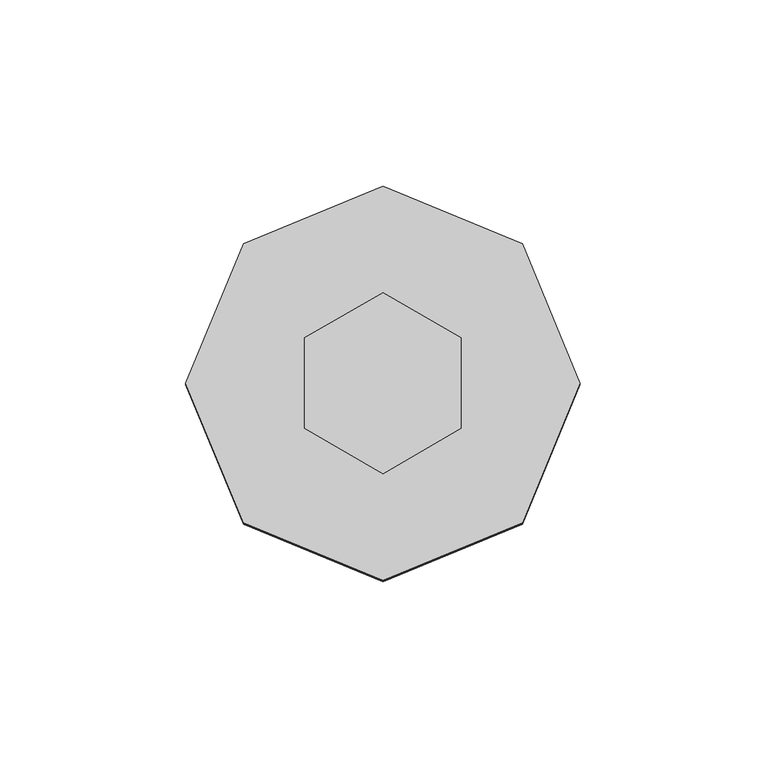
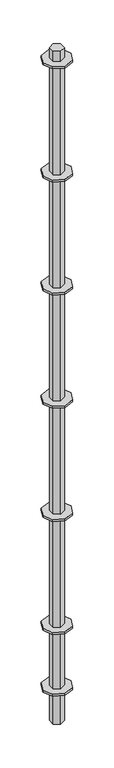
"""IFC4 building model written with IfcOpenShell, lengths in millimetres: proxy geometry, AK_アルバトロスＡＫ支柱L=2700_軽 : AK_アルバトロスＡＫ支柱L=2700."""

from ifc_helpers import new_model, si_unit, frame, origin, origin_with_axes, place, context, project, spatial, polyline, outline, extrude, source, transform, mapped, element, save


def generic_models_b39278bf(model_context):
    return source(origin(), model_context, "Body", "SweptSolid", [
        extrude(outline(polyline([(-37.4766594, -37.4766594), (-53.0, 0.0), (-37.4766594, 37.4766594), (0.0, 53.0), (37.4766594, 37.4766594), (53.0, 0.0), (37.4766594, -37.4766594), (0.0, -53.0), (-37.4766594, -37.4766594)])), frame((0.0, 0.0, 131.0), z_axis=(0.0, 0.0, 1.0), x_axis=(1.0, 0.0, 0.0)), (0.0, 0.0, 1.0), 8.0),
        extrude(outline(polyline([(-37.4766594, -37.4766594), (-53.0, 0.0), (-37.4766594, 37.4766594), (0.0, 53.0), (37.4766594, 37.4766594), (53.0, 0.0), (37.4766594, -37.4766594), (0.0, -53.0), (-37.4766594, -37.4766594)])), frame((0.0, 0.0, 2626.0), z_axis=(0.0, 0.0, 1.0), x_axis=(1.0, 0.0, 0.0)), (0.0, 0.0, 1.0), 8.0),
        extrude(outline(polyline([(-37.4766594, -37.4766594), (-53.0, 0.0), (-37.4766594, 37.4766594), (0.0, 53.0), (37.4766594, 37.4766594), (53.0, 0.0), (37.4766594, -37.4766594), (0.0, -53.0), (-37.4766594, -37.4766594)])), frame((0.0, 0.0, 2176.0), z_axis=(0.0, 0.0, 1.0), x_axis=(1.0, 0.0, 0.0)), (0.0, 0.0, 1.0), 8.0),
        extrude(outline(polyline([(-37.4766594, -37.4766594), (-53.0, 0.0), (-37.4766594, 37.4766594), (0.0, 53.0), (37.4766594, 37.4766594), (53.0, 0.0), (37.4766594, -37.4766594), (0.0, -53.0), (-37.4766594, -37.4766594)])), frame((0.0, 0.0, 1726.0), z_axis=(0.0, 0.0, 1.0), x_axis=(1.0, 0.0, 0.0)), (0.0, 0.0, 1.0), 8.0),
        extrude(outline(polyline([(-37.4766594, -37.4766594), (-53.0, 0.0), (-37.4766594, 37.4766594), (0.0, 53.0), (37.4766594, 37.4766594), (53.0, 0.0), (37.4766594, -37.4766594), (0.0, -53.0), (-37.4766594, -37.4766594)])), frame((0.0, 0.0, 1276.0), z_axis=(0.0, 0.0, 1.0), x_axis=(1.0, 0.0, 0.0)), (0.0, 0.0, 1.0), 8.0),
        extrude(outline(polyline([(-37.4766594, -37.4766594), (-53.0, 0.0), (-37.4766594, 37.4766594), (0.0, 53.0), (37.4766594, 37.4766594), (53.0, 0.0), (37.4766594, -37.4766594), (0.0, -53.0), (-37.4766594, -37.4766594)])), frame((0.0, 0.0, 826.0), z_axis=(0.0, 0.0, 1.0), x_axis=(1.0, 0.0, 0.0)), (0.0, 0.0, 1.0), 8.0),
        extrude(outline(polyline([(-37.4766594, -37.4766594), (-53.0, 0.0), (-37.4766594, 37.4766594), (0.0, 53.0), (37.4766594, 37.4766594), (53.0, 0.0), (37.4766594, -37.4766594), (0.0, -53.0), (-37.4766594, -37.4766594)])), frame((0.0, 0.0, 376.0), z_axis=(0.0, 0.0, 1.0), x_axis=(1.0, 0.0, 0.0)), (0.0, 0.0, 1.0), 8.0),
        extrude(outline(polyline([(-21.0444173, -12.15), (-21.0444173, 12.15), (0.0, 24.3), (21.0444173, 12.15), (21.0444173, -12.15), (0.0, -24.3), (-21.0444173, -12.15)])), origin_with_axes(), (0.0, 0.0, 1.0), 2675.0),
    ])


if __name__ == "__main__":
    model = new_model("IFC4")
    model_context = context("Model", 3, world=origin())
    ifc_project = project(units=[si_unit("LENGTHUNIT", "METRE", prefix="MILLI")], contexts=[model_context])
    site = spatial("IfcSite", under=ifc_project)
    building = spatial("IfcBuilding", under=site)
    placement = place(None, origin())
    generic_models_shape = generic_models_b39278bf(model_context)
    element("IfcBuildingElementProxy", 1, Name="AK_アルバトロスＡＫ支柱L=2700_軽 : AK_アルバトロスＡＫ支柱L=2700", ObjectType="AK_アルバトロスＡＫ支柱L=2700_軽 : AK_アルバトロスＡＫ支柱L=2700", at=placement, inside=building, context=model_context, shape_type="MappedRepresentation", body=[
        mapped(generic_models_shape, transform((0.0, 0.0, 0.0), x_axis=(1.0, 0.0, 0.0), y_axis=(0.0, 1.0, 0.0), z_axis=(0.0, 0.0, 1.0))),
    ])
    save(model, "model.ifc")
